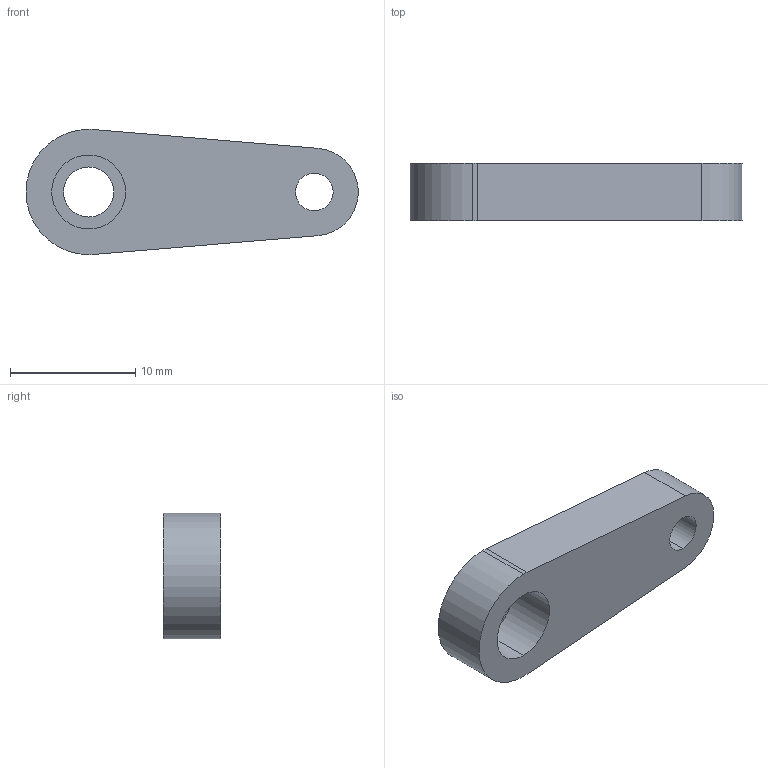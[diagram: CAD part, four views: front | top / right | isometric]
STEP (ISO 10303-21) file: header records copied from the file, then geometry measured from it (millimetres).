
FILE_DESCRIPTION (( 'STEP AP214' ), '1' );
FILE_NAME ('Ì44_ÏÌ_Êà÷åëüêà äëÿ ñåðâû.STEP', '2019-03-21T14:23:29', ( '' ), ( '' ), 'SwSTEP 2.0', 'SolidWorks 2018', '' );
FILE_SCHEMA (( 'AUTOMOTIVE_DESIGN' ));
Length unit declared in the file: millimetre
Products named in the file (1): Ì44_ÏÌ_Êà÷åëüêà äëÿ ñåðâû
Bounding box: 26.49 x 4.6 x 10 mm (x, y, z)
Volume: 826 mm3; surface area: 798.9 mm2
Topology: 1 solids, 1 shells, 15 faces, 36 edges, 24 vertices
Faces by surface type: cylinder 10, plane 5
Entity records: 492 total; most frequent: DIRECTION 88, CARTESIAN_POINT 76, ORIENTED_EDGE 72, EDGE_CURVE 36, AXIS2_PLACEMENT_3D 36, VERTEX_POINT 24, EDGE_LOOP 20, CIRCLE 20
